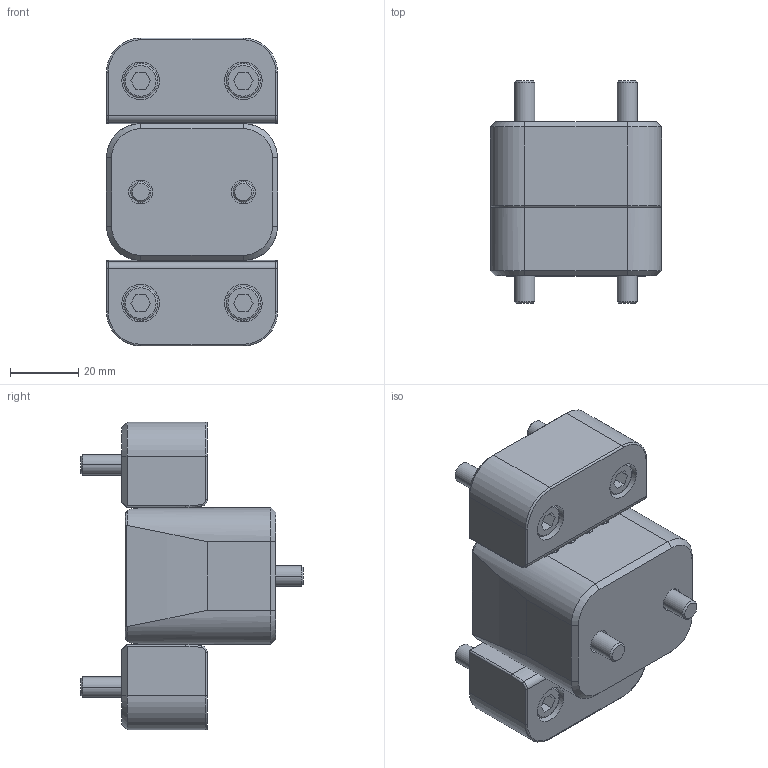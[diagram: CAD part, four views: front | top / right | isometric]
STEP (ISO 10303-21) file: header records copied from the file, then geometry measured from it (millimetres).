
FILE_DESCRIPTION (( 'STEP AP203' ), '1' );
FILE_NAME ('GLM50X90-R.step', '2015-11-05T22:09:11', ( '' ), ( '' ), 'SwSTEP 2.0', 'SolidWorks 2014', '' );
FILE_SCHEMA (( 'CONFIG_CONTROL_DESIGN' ));
Length unit declared in the file: millimetre
Products named in the file (6): M6_X_30; GLM50X90-R; GLM50X90-R LH; GLM50X90-R MALE; M6_X_45; GLM50X90-R RH
Assembly tree (9 placements, depth 2):
  GLM50X90-R
    GLM50X90-R MALE
    GLM50X90-R RH
    GLM50X90-R LH
    M6_X_45  x2
    M6_X_30  x4
Bounding box: 50 x 65 x 90 mm (x, y, z)
Volume: 141792.8 mm3; surface area: 32978.5 mm2
Topology: 9 solids, 9 shells, 414 faces, 882 edges, 568 vertices
Faces by surface type: cylinder 206, plane 160, torus 28, cone 20
Entity records: 10254 total; most frequent: DIRECTION 1806, CARTESIAN_POINT 1736, ORIENTED_EDGE 1460, AXIS2_PLACEMENT_3D 754, EDGE_CURVE 730, VERTEX_POINT 472, EDGE_LOOP 428, CIRCLE 400
